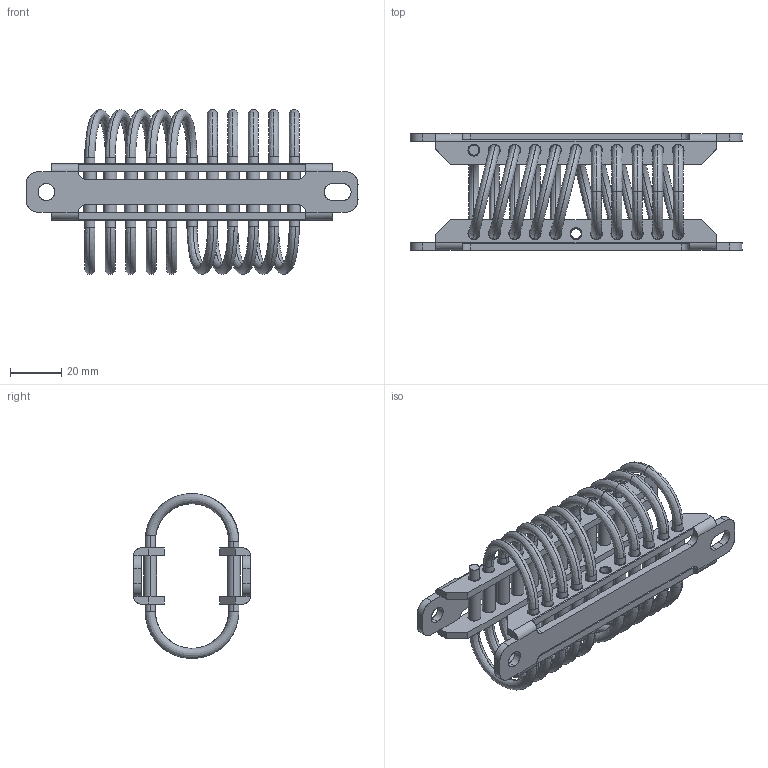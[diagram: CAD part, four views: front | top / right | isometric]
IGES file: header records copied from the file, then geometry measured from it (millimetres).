
Start section: SolidWorks IGES file using analytic representation for surfaces
Bounding box: 130 x 45.7 x 64.59 mm (x, y, z)
Surface area: 43476.9 mm2 (no closed solid volume)
Topology: 0 solids, 0 shells, 278 faces, 7500 edges, 7500 vertices
Faces by surface type: bspline 160, revolution 118
